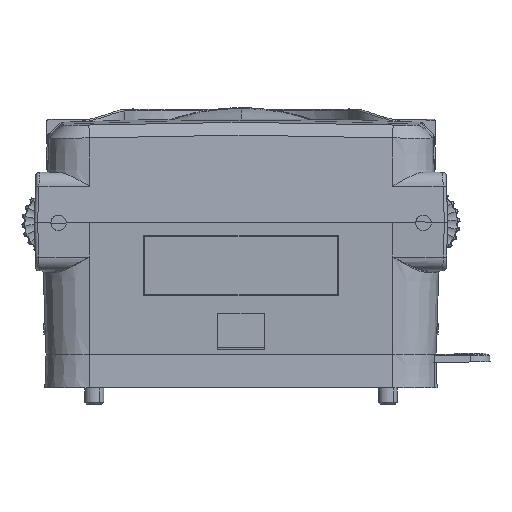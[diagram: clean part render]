
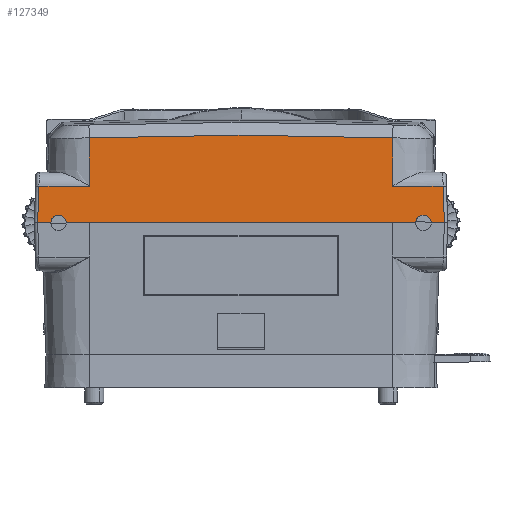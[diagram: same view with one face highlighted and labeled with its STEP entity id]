
A CAD part, front view. The second image highlights one B-rep face of the part: STEP entity #127349.
In plain terms, the highlighted planar face has unit normal (0, -0.999, 0.035).
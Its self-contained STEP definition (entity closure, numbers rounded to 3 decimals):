
#3118 = DIRECTION ( 'NONE',  ( -1., 0., 0. ) ) ;
#3142 = CARTESIAN_POINT ( 'NONE',  ( 31.5, -42.384, 51.947 ) ) ;
#4462 = VERTEX_POINT ( 'NONE', #90454 ) ;
#6422 = VERTEX_POINT ( 'NONE', #42820 ) ;
#7095 = VERTEX_POINT ( 'NONE', #29656 ) ;
#7102 = DIRECTION ( 'NONE',  ( 0., 0.035, 0.999 ) ) ;
#7559 = CARTESIAN_POINT ( 'NONE',  ( 39.5, -43., 34.3 ) ) ;
#8563 = VERTEX_POINT ( 'NONE', #42278 ) ;
#10019 = CARTESIAN_POINT ( 'NONE',  ( 0., -43., 34.3 ) ) ;
#12027 = CARTESIAN_POINT ( 'NONE',  ( 0., -43., 34.3 ) ) ;
#13891 = LINE ( 'NONE', #96585, #87633 ) ;
#15517 = VERTEX_POINT ( 'NONE', #49743 ) ;
#16281 = CARTESIAN_POINT ( 'NONE',  ( -36.3, -43., 34.3 ) ) ;
#16290 = CARTESIAN_POINT ( 'NONE',  ( -10.505, -42.358, 52.694 ) ) ;
#18908 = CARTESIAN_POINT ( 'NONE',  ( 31.5, -43., 34.3 ) ) ;
#20668 = VECTOR ( 'NONE', #7102, 1000. ) ;
#21359 = LINE ( 'NONE', #107414, #60466 ) ;
#23847 = LINE ( 'NONE', #12027, #42015 ) ;
#24403 = DIRECTION ( 'NONE',  ( -1., 0., 0. ) ) ;
#26288 = EDGE_CURVE ( 'NONE', #6422, #91071, #21359, .T. ) ;
#27627 = CARTESIAN_POINT ( 'NONE',  ( 39.5, -43., 34.3 ) ) ;
#28763 = ORIENTED_EDGE ( 'NONE', *, *, #78624, .T. ) ;
#29656 = CARTESIAN_POINT ( 'NONE',  ( -39.5, -43., 34.3 ) ) ;
#29815 = LINE ( 'NONE', #72150, #67840 ) ;
#30523 = EDGE_CURVE ( 'NONE', #15517, #4462, #110474, .T. ) ;
#32495 = VERTEX_POINT ( 'NONE', #7559 ) ;
#34224 = AXIS2_PLACEMENT_3D ( 'NONE', #106216, #87468, #108285 ) ;
#38394 = ORIENTED_EDGE ( 'NONE', *, *, #95441, .F. ) ;
#41362 = ORIENTED_EDGE ( 'NONE', *, *, #77518, .T. ) ;
#42015 = VECTOR ( 'NONE', #66197, 1000. ) ;
#42278 = CARTESIAN_POINT ( 'NONE',  ( 41.985, -42.734, 41.905 ) ) ;
#42820 = CARTESIAN_POINT ( 'NONE',  ( -36.3, -43., 34.3 ) ) ;
#43730 = DIRECTION ( 'NONE',  ( -0.035, -0.035, -0.999 ) ) ;
#46225 = B_SPLINE_CURVE_WITH_KNOTS ( 'NONE', 3,
 ( #3142, #57242, #16290, #90599 ),
 .UNSPECIFIED., .F., .F.,
 ( 4, 4 ),
 ( 0., 1. ),
 .UNSPECIFIED. ) ;
#49743 = CARTESIAN_POINT ( 'NONE',  ( -31.5, -42.734, 41.905 ) ) ;
#49907 = ORIENTED_EDGE ( 'NONE', *, *, #62318, .T. ) ;
#50607 = ORIENTED_EDGE ( 'NONE', *, *, #57184, .T. ) ;
#51853 = DIRECTION ( 'NONE',  ( 1., 0., 0. ) ) ;
#55285 = VERTEX_POINT ( 'NONE', #134016 ) ;
#56728 = CARTESIAN_POINT ( 'NONE',  ( 42.25, -43., 34.3 ) ) ;
#57184 = EDGE_CURVE ( 'NONE', #103485, #7095, #103096, .T. ) ;
#57242 = CARTESIAN_POINT ( 'NONE',  ( 10.508, -42.358, 52.694 ) ) ;
#57932 = CARTESIAN_POINT ( 'NONE',  ( -39.5, -42.888, 37.5 ) ) ;
#58618 = CARTESIAN_POINT ( 'NONE',  ( -36.3, -42.888, 37.5 ) ) ;
#59271 = CARTESIAN_POINT ( 'NONE',  ( 0., -42.734, 41.905 ) ) ;
#60423 = VECTOR ( 'NONE', #95444, 1000. ) ;
#60466 = VECTOR ( 'NONE', #51853, 1000. ) ;
#61537 = CARTESIAN_POINT ( 'NONE',  ( -31.5, -43., 34.3 ) ) ;
#62235 = LINE ( 'NONE', #61537, #99452 ) ;
#62318 = EDGE_CURVE ( 'NONE', #32495, #73900, #23847, .T. ) ;
#62663 = EDGE_CURVE ( 'NONE', #32495, #91071, #113967, .T. ) ;
#66197 = DIRECTION ( 'NONE',  ( 1., 0., 0. ) ) ;
#67840 = VECTOR ( 'NONE', #114534, 1000. ) ;
#69968 = CARTESIAN_POINT ( 'NONE',  ( 36.3, -43., 34.3 ) ) ;
#71702 = EDGE_CURVE ( 'NONE', #73900, #8563, #29815, .T. ) ;
#72150 = CARTESIAN_POINT ( 'NONE',  ( 41.986, -42.735, 41.88 ) ) ;
#72893 = PLANE ( 'NONE',  #34224 ) ;
#73900 = VERTEX_POINT ( 'NONE', #56728 ) ;
#77518 = EDGE_CURVE ( 'NONE', #8563, #123738, #112063, .T. ) ;
#78504 = CARTESIAN_POINT ( 'NONE',  ( -42.583, -42.734, 41.905 ) ) ;
#78624 = EDGE_CURVE ( 'NONE', #4462, #103485, #13891, .T. ) ;
#87186 = ORIENTED_EDGE ( 'NONE', *, *, #26288, .T. ) ;
#87468 = DIRECTION ( 'NONE',  ( 0., -0.999, 0.035 ) ) ;
#87633 = VECTOR ( 'NONE', #43730, 1000. ) ;
#89700 = EDGE_CURVE ( 'NONE', #123738, #55285, #111301, .T. ) ;
#90454 = CARTESIAN_POINT ( 'NONE',  ( -41.985, -42.734, 41.905 ) ) ;
#90599 = CARTESIAN_POINT ( 'NONE',  ( -31.5, -42.384, 51.947 ) ) ;
#90834 = CARTESIAN_POINT ( 'NONE',  ( 36.3, -42.888, 37.5 ) ) ;
#91071 = VERTEX_POINT ( 'NONE', #107301 ) ;
#92418 = ORIENTED_EDGE ( 'NONE', *, *, #71702, .T. ) ;
#95441 = EDGE_CURVE ( 'NONE', #6422, #7095, #135005, .T. ) ;
#95444 = DIRECTION ( 'NONE',  ( 1., 0., 0. ) ) ;
#96585 = CARTESIAN_POINT ( 'NONE',  ( -42.251, -43.001, 34.276 ) ) ;
#99452 = VECTOR ( 'NONE', #133886, 1000. ) ;
#103096 = LINE ( 'NONE', #10019, #60423 ) ;
#103485 = VERTEX_POINT ( 'NONE', #130105 ) ;
#105404 = EDGE_CURVE ( 'NONE', #55285, #125628, #46225, .T. ) ;
#105526 = FACE_OUTER_BOUND ( 'NONE', #132241, .T. ) ;
#106216 = CARTESIAN_POINT ( 'NONE',  ( 0., -43., 34.3 ) ) ;
#107301 = CARTESIAN_POINT ( 'NONE',  ( 36.3, -43., 34.3 ) ) ;
#107414 = CARTESIAN_POINT ( 'NONE',  ( 0., -43., 34.3 ) ) ;
#108285 = DIRECTION ( 'NONE',  ( 0., -0.035, -0.999 ) ) ;
#110474 = LINE ( 'NONE', #78504, #137349 ) ;
#110515 = CARTESIAN_POINT ( 'NONE',  ( -31.5, -42.384, 51.947 ) ) ;
#111301 = LINE ( 'NONE', #18908, #20668 ) ;
#111387 = ORIENTED_EDGE ( 'NONE', *, *, #89700, .T. ) ;
#112063 = LINE ( 'NONE', #59271, #129302 ) ;
#113967 =( BOUNDED_CURVE ( )  B_SPLINE_CURVE ( 3, ( #27627, #133960, #90834, #69968 ),
 .UNSPECIFIED., .F., .F. ) 
 B_SPLINE_CURVE_WITH_KNOTS ( ( 4, 4 ),
 ( 4.712, 7.854 ),
 .UNSPECIFIED. ) 
 CURVE ( )  GEOMETRIC_REPRESENTATION_ITEM ( )  RATIONAL_B_SPLINE_CURVE ( ( 1., 0.333, 0.333, 1. ) ) 
 REPRESENTATION_ITEM ( '' )  );
#114534 = DIRECTION ( 'NONE',  ( -0.035, 0.035, 0.999 ) ) ;
#115438 = CARTESIAN_POINT ( 'NONE',  ( 31.5, -42.734, 41.905 ) ) ;
#119804 = CARTESIAN_POINT ( 'NONE',  ( -39.5, -43., 34.3 ) ) ;
#123738 = VERTEX_POINT ( 'NONE', #115438 ) ;
#125628 = VERTEX_POINT ( 'NONE', #110515 ) ;
#127349 = ADVANCED_FACE ( 'NONE', ( #105526 ), #72893, .T. ) ;
#129302 = VECTOR ( 'NONE', #3118, 1000. ) ;
#130105 = CARTESIAN_POINT ( 'NONE',  ( -42.25, -43., 34.3 ) ) ;
#130683 = ORIENTED_EDGE ( 'NONE', *, *, #30523, .T. ) ;
#131321 = EDGE_CURVE ( 'NONE', #125628, #15517, #62235, .T. ) ;
#132059 = ORIENTED_EDGE ( 'NONE', *, *, #131321, .T. ) ;
#132241 = EDGE_LOOP ( 'NONE', ( #111387, #135725, #132059, #130683, #28763, #50607, #38394, #87186, #134308, #49907, #92418, #41362 ) ) ;
#133886 = DIRECTION ( 'NONE',  ( 0., -0.035, -0.999 ) ) ;
#133960 = CARTESIAN_POINT ( 'NONE',  ( 39.5, -42.888, 37.5 ) ) ;
#134016 = CARTESIAN_POINT ( 'NONE',  ( 31.5, -42.384, 51.947 ) ) ;
#134308 = ORIENTED_EDGE ( 'NONE', *, *, #62663, .F. ) ;
#135005 =( BOUNDED_CURVE ( )  B_SPLINE_CURVE ( 3, ( #16281, #58618, #57932, #119804 ),
 .UNSPECIFIED., .F., .F. ) 
 B_SPLINE_CURVE_WITH_KNOTS ( ( 4, 4 ),
 ( 4.712, 7.854 ),
 .UNSPECIFIED. ) 
 CURVE ( )  GEOMETRIC_REPRESENTATION_ITEM ( )  RATIONAL_B_SPLINE_CURVE ( ( 1., 0.333, 0.333, 1. ) ) 
 REPRESENTATION_ITEM ( '' )  );
#135725 = ORIENTED_EDGE ( 'NONE', *, *, #105404, .T. ) ;
#137349 = VECTOR ( 'NONE', #24403, 1000. ) ;
